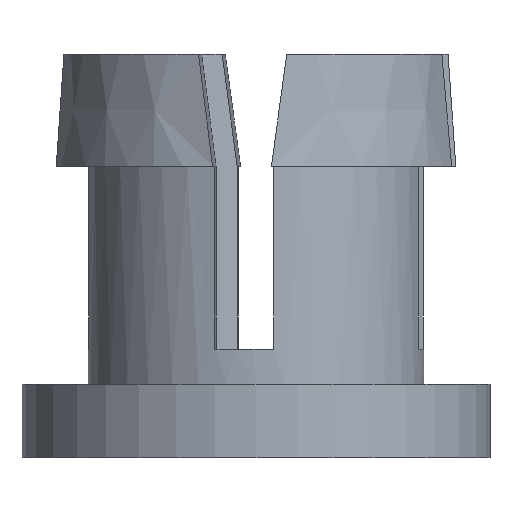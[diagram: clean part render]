
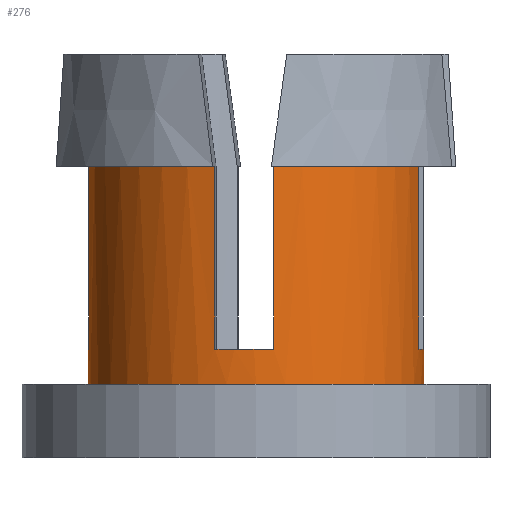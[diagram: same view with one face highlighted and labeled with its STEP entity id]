
A CAD part, left-side view. The second image highlights one B-rep face of the part: STEP entity #276.
In plain terms, the highlighted cylindrical face has radius 3.619 mm (diameter 7.239 mm), a partial arc.
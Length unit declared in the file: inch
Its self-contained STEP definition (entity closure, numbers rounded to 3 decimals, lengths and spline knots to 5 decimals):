
#23 = DIRECTION ( 'NONE',  ( 0., 0., 1. ) ) ;
#38 = LINE ( 'NONE', #1142, #1189 ) ;
#45 = VERTEX_POINT ( 'NONE', #558 ) ;
#47 = DIRECTION ( 'NONE',  ( 0., 0., 1. ) ) ;
#48 = DIRECTION ( 'NONE',  ( 0., -1., 0. ) ) ;
#52 = EDGE_CURVE ( 'NONE', #459, #1040, #899, .T. ) ;
#55 = CARTESIAN_POINT ( 'NONE',  ( -0.13817, 0.03485, -11.8904 ) ) ;
#59 = LINE ( 'NONE', #1128, #529 ) ;
#84 = LINE ( 'NONE', #385, #926 ) ;
#120 = EDGE_CURVE ( 'NONE', #1138, #524, #722, .T. ) ;
#134 = CARTESIAN_POINT ( 'NONE',  ( 0., 0., -12.0454 ) ) ;
#137 = VERTEX_POINT ( 'NONE', #411 ) ;
#138 = ORIENTED_EDGE ( 'NONE', *, *, #52, .F. ) ;
#165 = LINE ( 'NONE', #1048, #793 ) ;
#166 = FACE_OUTER_BOUND ( 'NONE', #856, .T. ) ;
#174 = EDGE_CURVE ( 'NONE', #459, #1138, #814, .T. ) ;
#237 = DIRECTION ( 'NONE',  ( 0., 0., -1. ) ) ;
#239 = EDGE_CURVE ( 'NONE', #778, #1243, #419, .T. ) ;
#251 = CARTESIAN_POINT ( 'NONE',  ( -0.14171, -0.01503, -11.8904 ) ) ;
#258 = DIRECTION ( 'NONE',  ( 0., 0., 1. ) ) ;
#267 = DIRECTION ( 'NONE',  ( 0., 0., -1. ) ) ;
#276 = ADVANCED_FACE ( 'NONE', ( #166 ), #666, .T. ) ;
#294 = AXIS2_PLACEMENT_3D ( 'NONE', #826, #1232, #422 ) ;
#304 = DIRECTION ( 'NONE',  ( 0., -1., 0. ) ) ;
#308 = ORIENTED_EDGE ( 'NONE', *, *, #318, .T. ) ;
#318 = EDGE_CURVE ( 'NONE', #45, #1040, #1092, .T. ) ;
#345 = EDGE_CURVE ( 'NONE', #137, #45, #59, .T. ) ;
#359 = AXIS2_PLACEMENT_3D ( 'NONE', #917, #569, #755 ) ;
#361 = EDGE_CURVE ( 'NONE', #524, #631, #699, .T. ) ;
#385 = CARTESIAN_POINT ( 'NONE',  ( -0.14171, -0.01503, -12.0454 ) ) ;
#403 = CARTESIAN_POINT ( 'NONE',  ( 0., 0., -12.0454 ) ) ;
#411 = CARTESIAN_POINT ( 'NONE',  ( -0.01503, 0.14171, -11.8904 ) ) ;
#419 = CIRCLE ( 'NONE', #359, 0.1425 ) ;
#422 = DIRECTION ( 'NONE',  ( 0., -1., 0. ) ) ;
#429 = CIRCLE ( 'NONE', #516, 0.1425 ) ;
#443 = ORIENTED_EDGE ( 'NONE', *, *, #740, .T. ) ;
#459 = VERTEX_POINT ( 'NONE', #1188 ) ;
#471 = ORIENTED_EDGE ( 'NONE', *, *, #239, .T. ) ;
#475 = CARTESIAN_POINT ( 'NONE',  ( 0., 0., -12.1374 ) ) ;
#490 = ORIENTED_EDGE ( 'NONE', *, *, #1007, .T. ) ;
#516 = AXIS2_PLACEMENT_3D ( 'NONE', #403, #1199, #304 ) ;
#524 = VERTEX_POINT ( 'NONE', #908 ) ;
#529 = VECTOR ( 'NONE', #237, 39.37008 ) ;
#558 = CARTESIAN_POINT ( 'NONE',  ( -0.01503, 0.14171, -12.0454 ) ) ;
#562 = DIRECTION ( 'NONE',  ( 0., 0., -1. ) ) ;
#565 = DIRECTION ( 'NONE',  ( 0., 0., 1. ) ) ;
#569 = DIRECTION ( 'NONE',  ( 0., 0., -1. ) ) ;
#579 = DIRECTION ( 'NONE',  ( 0., 0., -1. ) ) ;
#604 = CARTESIAN_POINT ( 'NONE',  ( -0.03485, -0.13817, -12.0454 ) ) ;
#627 = VECTOR ( 'NONE', #565, 39.37008 ) ;
#631 = VERTEX_POINT ( 'NONE', #604 ) ;
#648 = DIRECTION ( 'NONE',  ( 0., 0., 1. ) ) ;
#666 = CYLINDRICAL_SURFACE ( 'NONE', #923, 0.1425 ) ;
#678 = CARTESIAN_POINT ( 'NONE',  ( 0., 0.1425, -12.1374 ) ) ;
#684 = CARTESIAN_POINT ( 'NONE',  ( -0.13817, 0.03485, -12.0454 ) ) ;
#689 = EDGE_CURVE ( 'NONE', #631, #778, #38, .T. ) ;
#699 = CIRCLE ( 'NONE', #870, 0.1425 ) ;
#722 = LINE ( 'NONE', #1106, #1125 ) ;
#740 = EDGE_CURVE ( 'NONE', #1165, #1102, #165, .T. ) ;
#755 = DIRECTION ( 'NONE',  ( 0., -1., 0. ) ) ;
#761 = DIRECTION ( 'NONE',  ( 0., -1., 0. ) ) ;
#771 = DIRECTION ( 'NONE',  ( 0., -1., 0. ) ) ;
#778 = VERTEX_POINT ( 'NONE', #831 ) ;
#787 = CARTESIAN_POINT ( 'NONE',  ( 0., 0., -11.8904 ) ) ;
#793 = VECTOR ( 'NONE', #47, 39.37008 ) ;
#803 = CARTESIAN_POINT ( 'NONE',  ( -0.14171, -0.01503, -12.0454 ) ) ;
#814 = CIRCLE ( 'NONE', #294, 0.1425 ) ;
#826 = CARTESIAN_POINT ( 'NONE',  ( 0., 0., -12.0754 ) ) ;
#827 = ORIENTED_EDGE ( 'NONE', *, *, #689, .T. ) ;
#831 = CARTESIAN_POINT ( 'NONE',  ( -0.03485, -0.13817, -11.8904 ) ) ;
#856 = EDGE_LOOP ( 'NONE', ( #138, #1198, #1172, #1296, #827, #471, #1162, #490, #443, #1268, #1259, #308 ) ) ;
#870 = AXIS2_PLACEMENT_3D ( 'NONE', #1264, #267, #771 ) ;
#899 = LINE ( 'NONE', #678, #627 ) ;
#903 = AXIS2_PLACEMENT_3D ( 'NONE', #134, #562, #1274 ) ;
#908 = CARTESIAN_POINT ( 'NONE',  ( 0., -0.1425, -12.0454 ) ) ;
#917 = CARTESIAN_POINT ( 'NONE',  ( 0., 0., -11.8904 ) ) ;
#923 = AXIS2_PLACEMENT_3D ( 'NONE', #475, #648, #48 ) ;
#926 = VECTOR ( 'NONE', #984, 39.37008 ) ;
#948 = AXIS2_PLACEMENT_3D ( 'NONE', #787, #579, #761 ) ;
#984 = DIRECTION ( 'NONE',  ( 0., 0., -1. ) ) ;
#990 = VERTEX_POINT ( 'NONE', #803 ) ;
#1007 = EDGE_CURVE ( 'NONE', #990, #1165, #429, .T. ) ;
#1035 = CARTESIAN_POINT ( 'NONE',  ( 0., 0.1425, -12.0454 ) ) ;
#1040 = VERTEX_POINT ( 'NONE', #1035 ) ;
#1048 = CARTESIAN_POINT ( 'NONE',  ( -0.13817, 0.03485, -11.8904 ) ) ;
#1092 = CIRCLE ( 'NONE', #903, 0.1425 ) ;
#1102 = VERTEX_POINT ( 'NONE', #55 ) ;
#1106 = CARTESIAN_POINT ( 'NONE',  ( 0., -0.1425, -12.1374 ) ) ;
#1112 = CIRCLE ( 'NONE', #948, 0.1425 ) ;
#1125 = VECTOR ( 'NONE', #23, 39.37008 ) ;
#1128 = CARTESIAN_POINT ( 'NONE',  ( -0.01503, 0.14171, -12.0454 ) ) ;
#1138 = VERTEX_POINT ( 'NONE', #1261 ) ;
#1142 = CARTESIAN_POINT ( 'NONE',  ( -0.03485, -0.13817, -11.8904 ) ) ;
#1162 = ORIENTED_EDGE ( 'NONE', *, *, #1216, .T. ) ;
#1165 = VERTEX_POINT ( 'NONE', #684 ) ;
#1172 = ORIENTED_EDGE ( 'NONE', *, *, #120, .T. ) ;
#1188 = CARTESIAN_POINT ( 'NONE',  ( 0., 0.1425, -12.0754 ) ) ;
#1189 = VECTOR ( 'NONE', #258, 39.37008 ) ;
#1198 = ORIENTED_EDGE ( 'NONE', *, *, #174, .T. ) ;
#1199 = DIRECTION ( 'NONE',  ( 0., 0., -1. ) ) ;
#1205 = EDGE_CURVE ( 'NONE', #1102, #137, #1112, .T. ) ;
#1216 = EDGE_CURVE ( 'NONE', #1243, #990, #84, .T. ) ;
#1232 = DIRECTION ( 'NONE',  ( 0., 0., 1. ) ) ;
#1243 = VERTEX_POINT ( 'NONE', #251 ) ;
#1259 = ORIENTED_EDGE ( 'NONE', *, *, #345, .T. ) ;
#1261 = CARTESIAN_POINT ( 'NONE',  ( 0., -0.1425, -12.0754 ) ) ;
#1264 = CARTESIAN_POINT ( 'NONE',  ( 0., 0., -12.0454 ) ) ;
#1268 = ORIENTED_EDGE ( 'NONE', *, *, #1205, .T. ) ;
#1274 = DIRECTION ( 'NONE',  ( 0., -1., 0. ) ) ;
#1296 = ORIENTED_EDGE ( 'NONE', *, *, #361, .T. ) ;
